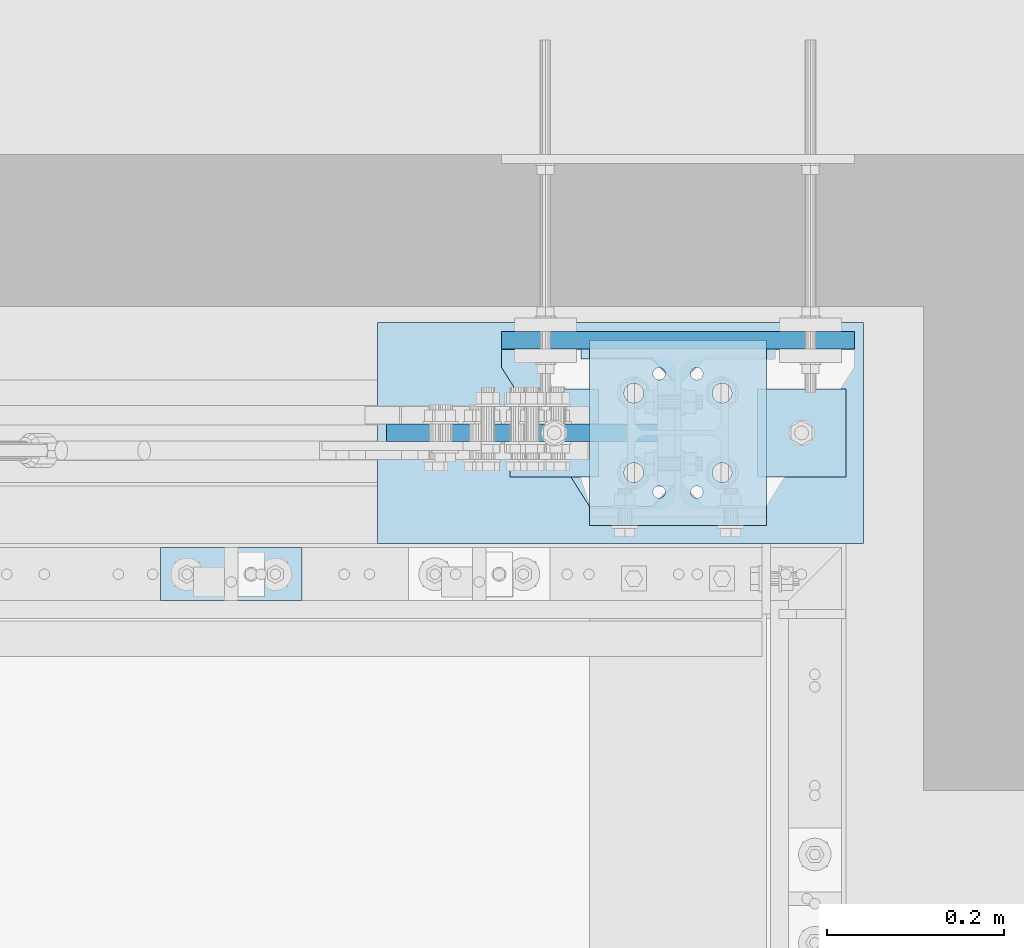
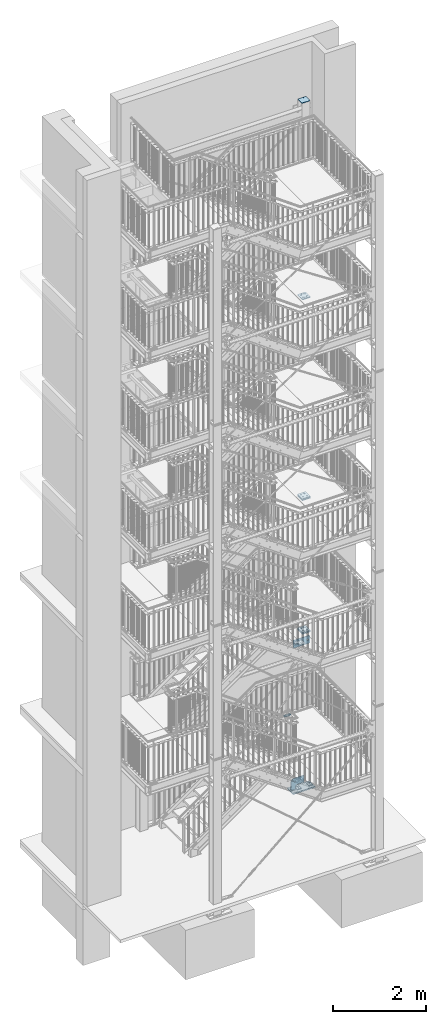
# One storey, part 217 of 831: 13 plates, 58 openings.
"""IFC2X3 building model written with IfcOpenShell, lengths in millimetres."""

from ifc_helpers import new_model, entity, si_unit, converted_unit, point, frame, frame_2d, origin, origin_with_axes, origin_2d_with_axis, place, context, project, spatial, polyline, circle_curve, line_curve, trimmed, segment, composite_curve, circle, outline, extrude, material, layer, layer_set, element, save


model = new_model("IFC2X3")

# Units and contexts
model_context = context("Model", 3, precision=1e-09, world=origin_with_axes())
ifc_project = project(units=[si_unit("LENGTHUNIT", "METRE", prefix="MILLI"), si_unit("AREAUNIT", "SQUARE_METRE"), si_unit("VOLUMEUNIT", "CUBIC_METRE"), converted_unit("PLANEANGLEUNIT", "DEGREE", entity("IfcPlaneAngleMeasure", 0.01745329), si_unit("PLANEANGLEUNIT", "RADIAN"), dimensions=[0, 0, 0, 0, 0, 0, 0])], contexts=[model_context])

# Site, building, storey
site_placement = place(None, origin_with_axes())
site = spatial("IfcSite", under=ifc_project, at=site_placement, Name="Site", CompositionType="ELEMENT")
building_placement = place(site_placement, origin_with_axes())
building = spatial("IfcBuilding", under=site, at=building_placement, Name="Struktur 1", CompositionType="ELEMENT")
storey_placement = place(building_placement, origin_with_axes())
storey = spatial("IfcBuildingStorey", under=building, at=storey_placement, Name="Default Storey", CompositionType="ELEMENT", Elevation=0.0)

# Plate, openings
ifc_material = material(Name="S235JR")
ifc_layer_1 = layer(ifc_material, 10.0)
ifc_layer_set_1 = layer_set([ifc_layer_1], Name="S235JR")
plate_1_placement = place(None, frame((8666.713402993, 7611.236971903, 3837.000000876), z_axis=(0.0, 0.0, 1.0), x_axis=(0.0, -1.0, 0.0)))
plate_1 = element("IfcPlate", 1, at=plate_1_placement, inside=storey, material=ifc_layer_set_1, Name="-", ObjectType="-", context=model_context, shape_type="SweptSolid", body=[
    extrude(outline(polyline([(0.0, 0.0), (20.0, 0.0), (178.0, 100.0), (178.0, 196.0), (11.0, 196.0), (11.0, 90.0), (0.0, 90.0), (0.0, 0.0)])), origin_with_axes(), (0.0, 0.0, 1.0), 10.0),
])
opening_1_placement = place(plate_1_placement, frame((0.0, 0.0, -0.01), z_axis=(0.0, 0.0, 1.0), x_axis=(1.0, 0.0, 0.0)))
element("IfcOpeningElement", 2, at=opening_1_placement, cuts=plate_1, ObjectType="Opening", context=model_context, shape_type="SweptSolid", body=[
    extrude(outline(polyline([(11.0, 196.0), (11.0, 171.0), (36.0, 196.0), (11.0, 196.0)])), origin(), (0.0, 0.0, 1.0), 10.02),
])
opening_2_placement = place(plate_1_placement, frame((0.0, 0.0, -0.01), z_axis=(0.0, 0.0, 1.0), x_axis=(1.0, 0.0, 0.0)))
element("IfcOpeningElement", 3, at=opening_2_placement, cuts=plate_1, ObjectType="Opening", context=model_context, shape_type="SweptSolid", body=[
    extrude(outline(polyline([(178.0, 196.0), (153.0, 196.0), (178.0, 171.0), (178.0, 196.0)])), origin(), (0.0, 0.0, 1.0), 10.02),
])

ifc_layer_2 = layer(ifc_material, 20.0)
ifc_layer_set_2 = layer_set([ifc_layer_2], Name="S235JR")
plate_2_placement = place(None, frame((8866.713402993, 7631.736971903, 3782.000000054), z_axis=(0.0, -1.0, 0.0), x_axis=(1.0, 0.0, 0.0)))
plate_2 = element("IfcPlate", 4, at=plate_2_placement, inside=storey, material=ifc_layer_set_2, Name="-", ObjectType="-", context=model_context, shape_type="SweptSolid", body=[
    extrude(outline(polyline([(-200.0, -100.0), (200.0, -100.0), (200.0, 100.0), (-200.0, 100.0), (-200.0, -100.0)])), origin_with_axes(), (0.0, 0.0, 1.0), 20.0),
])
opening_3_placement = place(plate_2_placement, frame((-3.4e-08, -5.4e-08, -0.5), z_axis=(0.0, 0.0, 1.0), x_axis=(1.0, 0.0, 0.0)))
element("IfcOpeningElement", 5, at=opening_3_placement, cuts=plate_2, ObjectType="Opening", context=model_context, shape_type="SweptSolid", body=[
    extrude(circle(Radius=20.001, at=frame_2d((150.0, 0.0), x_axis=(1.0, 0.0))), origin(), (0.0, 0.0, 1.0), 21.0),
])
opening_4_placement = place(plate_2_placement, frame((-3.4e-08, -5.4e-08, -0.5), z_axis=(0.0, 0.0, 1.0), x_axis=(1.0, 0.0, 0.0)))
element("IfcOpeningElement", 6, at=opening_4_placement, cuts=plate_2, ObjectType="Opening", context=model_context, shape_type="SweptSolid", body=[
    extrude(circle(Radius=20.001, at=frame_2d((-150.0, 0.0), x_axis=(1.0, 0.0))), origin(), (0.0, 0.0, 1.0), 21.0),
])

plate_3_placement = place(None, frame((8440.944225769, 7386.736971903, 2181.0526312), z_axis=(0.0, 0.0, 1.0), x_axis=(-1.0, 0.0, 0.0)))
plate_3 = element("IfcPlate", 7, at=plate_3_placement, inside=storey, material=ifc_layer_set_2, Name="Plate#503", ObjectType="Plate#503", context=model_context, shape_type="SweptSolid", body=[
    extrude(outline(polyline([(0.0, 0.0), (160.0, 0.0), (160.0, 60.0), (0.0, 60.0), (0.0, 0.0)])), origin_with_axes(), (0.0, 0.0, 1.0), 20.0),
])
opening_5_placement = place(plate_3_placement, frame((38.0, 37.001, 20.5), z_axis=(0.0, 0.0, 1.0), x_axis=(-1.0, 0.0, 0.0)))
element("IfcOpeningElement", 8, at=opening_5_placement, cuts=plate_3, ObjectType="Opening", context=model_context, shape_type="SweptSolid", body=[
    extrude(outline(composite_curve([segment(trimmed(line_curve((0.0, 0.0), (1.0, 0.0), 16.0), [point((0.0, 0.0))], [point((16.0, 0.0))], True, "CARTESIAN"), True, "CONTINUOUS"), segment(trimmed(circle_curve(frame_2d((16.0, 7.001), x_axis=(1.0, 0.0)), 7.001), [point((16.0, 0.0))], [point((16.0, 14.002))], True, "CARTESIAN"), True, "CONTINUOUS"), segment(trimmed(line_curve((16.0, 14.002), (-1.0, 0.0), 16.0), [point((16.0, 14.002))], [point((0.0, 14.002))], True, "CARTESIAN"), True, "CONTINUOUS"), segment(trimmed(circle_curve(frame_2d((0.0, 7.001), x_axis=(1.0, 0.0)), 7.001), [point((0.0, 14.002))], [point((0.0, 0.0))], True, "CARTESIAN"), True, "CONTINUOUS")], self_intersect=False)), origin(), (0.0, 0.0, -1.0), 21.0),
])
opening_6_placement = place(plate_3_placement, frame((138.0, 37.001, 20.5), z_axis=(0.0, 0.0, 1.0), x_axis=(-1.0, 0.0, 0.0)))
element("IfcOpeningElement", 9, at=opening_6_placement, cuts=plate_3, ObjectType="Opening", context=model_context, shape_type="SweptSolid", body=[
    extrude(outline(composite_curve([segment(trimmed(line_curve((0.0, 0.0), (1.0, 0.0), 16.0), [point((0.0, 0.0))], [point((16.0, 0.0))], True, "CARTESIAN"), True, "CONTINUOUS"), segment(trimmed(circle_curve(frame_2d((16.0, 7.001), x_axis=(1.0, 0.0)), 7.001), [point((16.0, 0.0))], [point((16.0, 14.002))], True, "CARTESIAN"), True, "CONTINUOUS"), segment(trimmed(line_curve((16.0, 14.002), (-1.0, 0.0), 16.0), [point((16.0, 14.002))], [point((0.0, 14.002))], True, "CARTESIAN"), True, "CONTINUOUS"), segment(trimmed(circle_curve(frame_2d((0.0, 7.001), x_axis=(1.0, 0.0)), 7.001), [point((0.0, 14.002))], [point((0.0, 0.0))], True, "CARTESIAN"), True, "CONTINUOUS")], self_intersect=False)), origin(), (0.0, 0.0, -1.0), 21.0),
])

# Plate, opening
ifc_layer_3 = layer(ifc_material, 12.0)
ifc_layer_set_3 = layer_set([ifc_layer_3], Name="S235JR")
plate_4_placement = place(None, frame((8726.713402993, 7516.736971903, 60.0), z_axis=(0.0, 0.0, 1.0), x_axis=(-1.0, 0.0, 0.0)))
plate_4 = element("IfcPlate", 10, at=plate_4_placement, inside=storey, material=ifc_layer_set_3, Name="-", ObjectType="-", context=model_context, shape_type="SweptSolid", body=[
    extrude(outline(polyline([(-50.0, -50.0), (50.0, -50.0), (50.0, 50.0), (-50.0, 50.0), (-50.0, -50.0)])), origin_with_axes(), (0.0, 0.0, 1.0), 12.0),
])
opening_7_placement = place(plate_4_placement, frame((1e-09, 1e-09, -0.5), z_axis=(0.0, 0.0, 1.0), x_axis=(1.0, 0.0, 0.0)))
element("IfcOpeningElement", 11, at=opening_7_placement, cuts=plate_4, ObjectType="Opening", context=model_context, shape_type="SweptSolid", body=[
    extrude(circle(Radius=9.001, at=origin_2d_with_axis()), origin(), (0.0, 0.0, 1.0), 13.0),
])

plate_5_placement = place(None, frame((9006.713402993, 7516.736971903, 60.0), z_axis=(0.0, 0.0, 1.0), x_axis=(-1.0, 0.0, 0.0)))
plate_5 = element("IfcPlate", 12, at=plate_5_placement, inside=storey, material=ifc_layer_set_3, Name="-", ObjectType="-", context=model_context, shape_type="SweptSolid", body=[
    extrude(outline(polyline([(-50.0, -50.0), (50.0, -50.0), (50.0, 50.0), (-50.0, 50.0), (-50.0, -50.0)])), origin_with_axes(), (0.0, 0.0, 1.0), 12.0),
])
opening_8_placement = place(plate_5_placement, frame((1e-09, 1e-09, -0.5), z_axis=(0.0, 0.0, 1.0), x_axis=(1.0, 0.0, 0.0)))
element("IfcOpeningElement", 13, at=opening_8_placement, cuts=plate_5, ObjectType="Opening", context=model_context, shape_type="SweptSolid", body=[
    extrude(circle(Radius=9.001, at=origin_2d_with_axis()), origin(), (0.0, 0.0, 1.0), 13.0),
])

# Plate, openings
plate_6_placement = place(None, frame((8700.088402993, 7506.736971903, 206.477386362), z_axis=(0.0, 1.0, 0.0), x_axis=(-1.0, 0.0, 0.0)))
plate_6 = element("IfcPlate", 14, at=plate_6_placement, inside=storey, material=ifc_layer_set_2, Name="-", ObjectType="-", context=model_context, shape_type="SweptSolid", body=[
    extrude(outline(polyline([(-163.375, -146.477386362), (163.375, -146.477386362), (163.375, 146.477386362), (-163.375, 146.477386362), (-163.375, -146.477386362)])), origin_with_axes(), (0.0, 0.0, 1.0), 20.0),
])
opening_9_placement = place(plate_6_placement, frame((0.0, 0.0, -0.1), z_axis=(0.0, 0.0, 1.0), x_axis=(1.0, 0.0, 0.0)))
element("IfcOpeningElement", 15, at=opening_9_placement, cuts=plate_6, ObjectType="Opening", context=model_context, shape_type="SweptSolid", body=[
    extrude(outline(composite_curve([segment(trimmed(circle_curve(frame_2d((-198.468160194, -200.200309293), x_axis=(1.0, 0.0)), 40.0), [point((-238.468160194, -200.200309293))], [point((-198.468160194, -240.200309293))], True, "CARTESIAN"), True, "CONTINUOUS"), segment(trimmed(line_curve((-198.468160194, -240.200309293), (1.0, 0.0), 201.844160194), [point((-198.468160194, -240.200309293))], [point((3.376, -240.200309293))], True, "CARTESIAN"), True, "CONTINUOUS"), segment(trimmed(circle_curve(frame_2d((3.376, -200.200309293), x_axis=(1.0, 0.0)), 40.0), [point((3.376, -240.200309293))], [point((43.376, -200.200309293))], True, "CARTESIAN"), True, "CONTINUOUS"), segment(trimmed(line_curve((43.376, -200.200309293), (0.0, 1.0), 126.678695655), [point((43.376, -200.200309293))], [point((43.376, -73.521613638))], True, "CARTESIAN"), True, "CONTINUOUS"), segment(trimmed(circle_curve(frame_2d((3.376, -73.521613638), x_axis=(1.0, 0.0)), 40.0), [point((43.376, -73.521613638))], [point((3.376, -33.521613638))], True, "CARTESIAN"), True, "CONTINUOUS"), segment(trimmed(line_curve((3.376, -33.521613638), (-1.0, 0.0), 201.844160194), [point((3.376, -33.521613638))], [point((-198.468160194, -33.521613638))], True, "CARTESIAN"), True, "CONTINUOUS"), segment(trimmed(circle_curve(frame_2d((-198.468160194, -73.521613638), x_axis=(1.0, 0.0)), 40.0), [point((-198.468160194, -33.521613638))], [point((-238.468160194, -73.521613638))], True, "CARTESIAN"), True, "CONTINUOUS"), segment(trimmed(line_curve((-238.468160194, -73.521613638), (0.0, -1.0), 126.678695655), [point((-238.468160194, -73.521613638))], [point((-238.468160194, -200.200309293))], True, "CARTESIAN"), True, "CONTINUOUS")], self_intersect=False)), origin(), (0.0, 0.0, 1.0), 20.2),
])
opening_10_placement = place(plate_6_placement, frame((0.0, 0.0, -0.1), z_axis=(0.0, 0.0, 1.0), x_axis=(1.0, 0.0, 0.0)))
element("IfcOpeningElement", 16, at=opening_10_placement, cuts=plate_6, ObjectType="Opening", context=model_context, shape_type="SweptSolid", body=[
    extrude(outline(polyline([(209.753690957, 203.906118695), (71.378333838, 185.095816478), (191.909853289, 43.56392964), (209.753690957, 203.906118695)])), origin(), (0.0, 0.0, 1.0), 20.2),
])
opening_11_placement = place(plate_6_placement, frame((100.284176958, 83.290813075, 20.5), z_axis=(0.0, 0.0, 1.0), x_axis=(1.0, 0.0, 0.0)))
element("IfcOpeningElement", 17, at=opening_11_placement, cuts=plate_6, ObjectType="Opening", context=model_context, shape_type="SweptSolid", body=[
    extrude(circle(Radius=9.001, at=frame_2d((6.821564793, 5.872329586), x_axis=(1.0, 0.0))), origin(), (0.0, 0.0, -1.0), 21.0),
])
opening_12_placement = place(plate_6_placement, frame((54.812130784, 44.146298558, 20.5), z_axis=(0.0, 0.0, 1.0), x_axis=(1.0, 0.0, 0.0)))
element("IfcOpeningElement", 18, at=opening_12_placement, cuts=plate_6, ObjectType="Opening", context=model_context, shape_type="SweptSolid", body=[
    extrude(circle(Radius=9.001, at=frame_2d((6.821564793, 5.872329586), x_axis=(1.0, 0.0))), origin(), (0.0, 0.0, -1.0), 21.0),
])

ifc_layer_4 = layer(ifc_material, 30.0)
ifc_layer_set_4 = layer_set([ifc_layer_4], Name="S235JR")
plate_7_placement = place(None, frame((8801.713402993, 7516.736971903, 30.0), z_axis=(0.0, 0.0, 1.0), x_axis=(-1.0, 0.0, 0.0)))
plate_7 = element("IfcPlate", 19, at=plate_7_placement, inside=storey, material=ifc_layer_set_4, Name="-", ObjectType="-", context=model_context, shape_type="SweptSolid", body=[
    extrude(outline(polyline([(-275.0, -125.0), (275.0, -125.0), (275.0, 125.0), (-275.0, 125.0), (-275.0, -125.0)])), origin_with_axes(), (0.0, 0.0, 1.0), 30.0),
])
opening_13_placement = place(plate_7_placement, frame((-65.0, 0.0, -0.5), z_axis=(0.0, 0.0, 1.0), x_axis=(1.0, 0.0, 0.0)))
element("IfcOpeningElement", 20, at=opening_13_placement, cuts=plate_7, ObjectType="Opening", context=model_context, shape_type="SweptSolid", body=[
    extrude(circle(Radius=28.001, at=frame_2d((140.0, 0.0), x_axis=(1.0, 0.0))), origin(), (0.0, 0.0, 1.0), 31.0),
])
opening_14_placement = place(plate_7_placement, frame((-65.0, 0.0, -0.5), z_axis=(0.0, 0.0, 1.0), x_axis=(1.0, 0.0, 0.0)))
element("IfcOpeningElement", 21, at=opening_14_placement, cuts=plate_7, ObjectType="Opening", context=model_context, shape_type="SweptSolid", body=[
    extrude(circle(Radius=28.001, at=frame_2d((-140.0, 0.0), x_axis=(1.0, 0.0))), origin(), (0.0, 0.0, 1.0), 31.0),
])

ifc_layer_5 = layer(ifc_material, 25.0)
ifc_layer_set_5 = layer_set([ifc_layer_5], Name="S235JR")
plate_8_placement = place(None, frame((8866.713402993, 7516.736971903, 4150.0), z_axis=(0.0, 0.0, -1.0), x_axis=(0.0, -1.0, 0.0)))
plate_8 = element("IfcPlate", 22, at=plate_8_placement, inside=storey, material=ifc_layer_set_5, Name="Endplate#1", ObjectType="Endplate#1", context=model_context, shape_type="SweptSolid", body=[
    extrude(outline(polyline([(-105.0, -100.0), (105.0, -100.0), (105.0, 100.0), (-105.0, 100.0), (-105.0, -100.0)])), origin_with_axes(), (0.0, 0.0, 1.0), 25.0),
])
opening_15_placement = place(plate_8_placement, frame((67.0, 21.25, -0.5), z_axis=(0.0, 0.0, 1.0), x_axis=(1.0, 0.0, 0.0)))
element("IfcOpeningElement", 23, at=opening_15_placement, cuts=plate_8, ObjectType="Opening", context=model_context, shape_type="SweptSolid", body=[
    extrude(circle(Radius=7.001, at=origin_2d_with_axis()), origin(), (0.0, 0.0, 1.0), 26.0),
])
opening_16_placement = place(plate_8_placement, frame((-67.0, 21.25, -0.5), z_axis=(0.0, 0.0, 1.0), x_axis=(1.0, 0.0, 0.0)))
element("IfcOpeningElement", 24, at=opening_16_placement, cuts=plate_8, ObjectType="Opening", context=model_context, shape_type="SweptSolid", body=[
    extrude(circle(Radius=7.001, at=origin_2d_with_axis()), origin(), (0.0, 0.0, 1.0), 26.0),
])
opening_17_placement = place(plate_8_placement, frame((-67.0, -21.25, -0.5), z_axis=(0.0, 0.0, 1.0), x_axis=(1.0, 0.0, 0.0)))
element("IfcOpeningElement", 25, at=opening_17_placement, cuts=plate_8, ObjectType="Opening", context=model_context, shape_type="SweptSolid", body=[
    extrude(circle(Radius=7.001, at=origin_2d_with_axis()), origin(), (0.0, 0.0, 1.0), 26.0),
])
opening_18_placement = place(plate_8_placement, frame((67.0, -21.25, -0.5), z_axis=(0.0, 0.0, 1.0), x_axis=(1.0, 0.0, 0.0)))
element("IfcOpeningElement", 26, at=opening_18_placement, cuts=plate_8, ObjectType="Opening", context=model_context, shape_type="SweptSolid", body=[
    extrude(circle(Radius=7.001, at=origin_2d_with_axis()), origin(), (0.0, 0.0, 1.0), 26.0),
])
opening_19_placement = place(plate_8_placement, frame((45.0, -38.999, 25.5), z_axis=(0.0, 0.0, 1.0), x_axis=(1.0, 0.0, 0.0)))
element("IfcOpeningElement", 27, at=opening_19_placement, cuts=plate_8, ObjectType="Opening", context=model_context, shape_type="SweptSolid", body=[
    extrude(circle(Radius=11.001, at=frame_2d((0.0, -11.001), x_axis=(1.0, 0.0))), origin(), (0.0, 0.0, -1.0), 26.0),
])
opening_20_placement = place(plate_8_placement, frame((-45.0, -38.999, 25.5), z_axis=(0.0, 0.0, 1.0), x_axis=(1.0, 0.0, 0.0)))
element("IfcOpeningElement", 28, at=opening_20_placement, cuts=plate_8, ObjectType="Opening", context=model_context, shape_type="SweptSolid", body=[
    extrude(circle(Radius=11.001, at=frame_2d((0.0, -11.001), x_axis=(1.0, 0.0))), origin(), (0.0, 0.0, -1.0), 26.0),
])
opening_21_placement = place(plate_8_placement, frame((45.0, 61.001, 25.5), z_axis=(0.0, 0.0, 1.0), x_axis=(1.0, 0.0, 0.0)))
element("IfcOpeningElement", 29, at=opening_21_placement, cuts=plate_8, ObjectType="Opening", context=model_context, shape_type="SweptSolid", body=[
    extrude(circle(Radius=11.001, at=frame_2d((0.0, -11.001), x_axis=(1.0, 0.0))), origin(), (0.0, 0.0, -1.0), 26.0),
])
opening_22_placement = place(plate_8_placement, frame((-45.0, 61.001, 25.5), z_axis=(0.0, 0.0, 1.0), x_axis=(1.0, 0.0, 0.0)))
element("IfcOpeningElement", 30, at=opening_22_placement, cuts=plate_8, ObjectType="Opening", context=model_context, shape_type="SweptSolid", body=[
    extrude(circle(Radius=11.001, at=frame_2d((0.0, -11.001), x_axis=(1.0, 0.0))), origin(), (0.0, 0.0, -1.0), 26.0),
])

plate_9_placement = place(None, frame((8866.713402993, 7516.736971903, 4175.0), z_axis=(0.0, 0.0, -1.0), x_axis=(0.0, -1.0, 0.0)))
plate_9 = element("IfcPlate", 31, at=plate_9_placement, inside=storey, material=ifc_layer_set_5, Name="Endplate#2", ObjectType="Endplate#2", context=model_context, shape_type="SweptSolid", body=[
    extrude(outline(polyline([(-105.0, -100.0), (105.0, -100.0), (105.0, 100.0), (-105.0, 100.0), (-105.0, -100.0)])), origin_with_axes(), (0.0, 0.0, 1.0), 25.0),
])
opening_23_placement = place(plate_9_placement, frame((67.0, 21.25, 25.5), z_axis=(0.0, 0.0, -1.0), x_axis=(-1.0, 0.0, 0.0)))
element("IfcOpeningElement", 32, at=opening_23_placement, cuts=plate_9, ObjectType="Opening", context=model_context, shape_type="SweptSolid", body=[
    extrude(circle(Radius=7.001, at=origin_2d_with_axis()), origin(), (0.0, 0.0, 1.0), 26.0),
])
opening_24_placement = place(plate_9_placement, frame((-67.0, 21.25, 25.5), z_axis=(0.0, 0.0, -1.0), x_axis=(-1.0, 0.0, 0.0)))
element("IfcOpeningElement", 33, at=opening_24_placement, cuts=plate_9, ObjectType="Opening", context=model_context, shape_type="SweptSolid", body=[
    extrude(circle(Radius=7.001, at=origin_2d_with_axis()), origin(), (0.0, 0.0, 1.0), 26.0),
])
opening_25_placement = place(plate_9_placement, frame((-67.0, -21.25, 25.5), z_axis=(0.0, 0.0, -1.0), x_axis=(-1.0, 0.0, 0.0)))
element("IfcOpeningElement", 34, at=opening_25_placement, cuts=plate_9, ObjectType="Opening", context=model_context, shape_type="SweptSolid", body=[
    extrude(circle(Radius=7.001, at=origin_2d_with_axis()), origin(), (0.0, 0.0, 1.0), 26.0),
])
opening_26_placement = place(plate_9_placement, frame((67.0, -21.25, 25.5), z_axis=(0.0, 0.0, -1.0), x_axis=(-1.0, 0.0, 0.0)))
element("IfcOpeningElement", 35, at=opening_26_placement, cuts=plate_9, ObjectType="Opening", context=model_context, shape_type="SweptSolid", body=[
    extrude(circle(Radius=7.001, at=origin_2d_with_axis()), origin(), (0.0, 0.0, 1.0), 26.0),
])
opening_27_placement = place(plate_9_placement, frame((45.0, 61.001, 25.5), z_axis=(0.0, 0.0, 1.0), x_axis=(1.0, 0.0, 0.0)))
element("IfcOpeningElement", 36, at=opening_27_placement, cuts=plate_9, ObjectType="Opening", context=model_context, shape_type="SweptSolid", body=[
    extrude(circle(Radius=11.001, at=frame_2d((0.0, -11.001), x_axis=(1.0, 0.0))), origin(), (0.0, 0.0, -1.0), 26.0),
])
opening_28_placement = place(plate_9_placement, frame((-45.0, 61.001, 25.5), z_axis=(0.0, 0.0, 1.0), x_axis=(1.0, 0.0, 0.0)))
element("IfcOpeningElement", 37, at=opening_28_placement, cuts=plate_9, ObjectType="Opening", context=model_context, shape_type="SweptSolid", body=[
    extrude(circle(Radius=11.001, at=frame_2d((0.0, -11.001), x_axis=(1.0, 0.0))), origin(), (0.0, 0.0, -1.0), 26.0),
])
opening_29_placement = place(plate_9_placement, frame((45.0, -38.999, 25.5), z_axis=(0.0, 0.0, 1.0), x_axis=(1.0, 0.0, 0.0)))
element("IfcOpeningElement", 38, at=opening_29_placement, cuts=plate_9, ObjectType="Opening", context=model_context, shape_type="SweptSolid", body=[
    extrude(circle(Radius=11.001, at=frame_2d((0.0, -11.001), x_axis=(1.0, 0.0))), origin(), (0.0, 0.0, -1.0), 26.0),
])
opening_30_placement = place(plate_9_placement, frame((-45.0, -38.999, 25.5), z_axis=(0.0, 0.0, 1.0), x_axis=(1.0, 0.0, 0.0)))
element("IfcOpeningElement", 39, at=opening_30_placement, cuts=plate_9, ObjectType="Opening", context=model_context, shape_type="SweptSolid", body=[
    extrude(circle(Radius=11.001, at=frame_2d((0.0, -11.001), x_axis=(1.0, 0.0))), origin(), (0.0, 0.0, -1.0), 26.0),
])

plate_10_placement = place(None, frame((8866.713402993, 7516.736971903, 7650.0), z_axis=(0.0, 0.0, -1.0), x_axis=(0.0, -1.0, 0.0)))
plate_10 = element("IfcPlate", 40, at=plate_10_placement, inside=storey, material=ifc_layer_set_5, Name="Endplate#1", ObjectType="Endplate#1", context=model_context, shape_type="SweptSolid", body=[
    extrude(outline(polyline([(-105.0, -100.0), (105.0, -100.0), (105.0, 100.0), (-105.0, 100.0), (-105.0, -100.0)])), origin_with_axes(), (0.0, 0.0, 1.0), 25.0),
])
opening_31_placement = place(plate_10_placement, frame((67.0, 21.25, -0.5), z_axis=(0.0, 0.0, 1.0), x_axis=(1.0, 0.0, 0.0)))
element("IfcOpeningElement", 41, at=opening_31_placement, cuts=plate_10, ObjectType="Opening", context=model_context, shape_type="SweptSolid", body=[
    extrude(circle(Radius=7.001, at=origin_2d_with_axis()), origin(), (0.0, 0.0, 1.0), 26.0),
])
opening_32_placement = place(plate_10_placement, frame((-67.0, 21.25, -0.5), z_axis=(0.0, 0.0, 1.0), x_axis=(1.0, 0.0, 0.0)))
element("IfcOpeningElement", 42, at=opening_32_placement, cuts=plate_10, ObjectType="Opening", context=model_context, shape_type="SweptSolid", body=[
    extrude(circle(Radius=7.001, at=origin_2d_with_axis()), origin(), (0.0, 0.0, 1.0), 26.0),
])
opening_33_placement = place(plate_10_placement, frame((-67.0, -21.25, -0.5), z_axis=(0.0, 0.0, 1.0), x_axis=(1.0, 0.0, 0.0)))
element("IfcOpeningElement", 43, at=opening_33_placement, cuts=plate_10, ObjectType="Opening", context=model_context, shape_type="SweptSolid", body=[
    extrude(circle(Radius=7.001, at=origin_2d_with_axis()), origin(), (0.0, 0.0, 1.0), 26.0),
])
opening_34_placement = place(plate_10_placement, frame((67.0, -21.25, -0.5), z_axis=(0.0, 0.0, 1.0), x_axis=(1.0, 0.0, 0.0)))
element("IfcOpeningElement", 44, at=opening_34_placement, cuts=plate_10, ObjectType="Opening", context=model_context, shape_type="SweptSolid", body=[
    extrude(circle(Radius=7.001, at=origin_2d_with_axis()), origin(), (0.0, 0.0, 1.0), 26.0),
])
opening_35_placement = place(plate_10_placement, frame((45.0, 61.001, 25.5), z_axis=(0.0, 0.0, 1.0), x_axis=(1.0, 0.0, 0.0)))
element("IfcOpeningElement", 45, at=opening_35_placement, cuts=plate_10, ObjectType="Opening", context=model_context, shape_type="SweptSolid", body=[
    extrude(circle(Radius=11.001, at=frame_2d((0.0, -11.001), x_axis=(1.0, 0.0))), origin(), (0.0, 0.0, -1.0), 26.0),
])
opening_36_placement = place(plate_10_placement, frame((-45.0, 61.001, 25.5), z_axis=(0.0, 0.0, 1.0), x_axis=(1.0, 0.0, 0.0)))
element("IfcOpeningElement", 46, at=opening_36_placement, cuts=plate_10, ObjectType="Opening", context=model_context, shape_type="SweptSolid", body=[
    extrude(circle(Radius=11.001, at=frame_2d((0.0, -11.001), x_axis=(1.0, 0.0))), origin(), (0.0, 0.0, -1.0), 26.0),
])
opening_37_placement = place(plate_10_placement, frame((45.0, -38.999, 25.5), z_axis=(0.0, 0.0, 1.0), x_axis=(1.0, 0.0, 0.0)))
element("IfcOpeningElement", 47, at=opening_37_placement, cuts=plate_10, ObjectType="Opening", context=model_context, shape_type="SweptSolid", body=[
    extrude(circle(Radius=11.001, at=frame_2d((0.0, -11.001), x_axis=(1.0, 0.0))), origin(), (0.0, 0.0, -1.0), 26.0),
])
opening_38_placement = place(plate_10_placement, frame((-45.0, -38.999, 25.5), z_axis=(0.0, 0.0, 1.0), x_axis=(1.0, 0.0, 0.0)))
element("IfcOpeningElement", 48, at=opening_38_placement, cuts=plate_10, ObjectType="Opening", context=model_context, shape_type="SweptSolid", body=[
    extrude(circle(Radius=11.001, at=frame_2d((0.0, -11.001), x_axis=(1.0, 0.0))), origin(), (0.0, 0.0, -1.0), 26.0),
])

plate_11_placement = place(None, frame((8866.713402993, 7516.736971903, 7675.0), z_axis=(0.0, 0.0, -1.0), x_axis=(0.0, -1.0, 0.0)))
plate_11 = element("IfcPlate", 49, at=plate_11_placement, inside=storey, material=ifc_layer_set_5, Name="Endplate#2", ObjectType="Endplate#2", context=model_context, shape_type="SweptSolid", body=[
    extrude(outline(polyline([(-105.0, -100.0), (105.0, -100.0), (105.0, 100.0), (-105.0, 100.0), (-105.0, -100.0)])), origin_with_axes(), (0.0, 0.0, 1.0), 25.0),
])
opening_39_placement = place(plate_11_placement, frame((67.0, 21.25, 25.5), z_axis=(0.0, 0.0, -1.0), x_axis=(-1.0, 0.0, 0.0)))
element("IfcOpeningElement", 50, at=opening_39_placement, cuts=plate_11, ObjectType="Opening", context=model_context, shape_type="SweptSolid", body=[
    extrude(circle(Radius=7.001, at=origin_2d_with_axis()), origin(), (0.0, 0.0, 1.0), 26.0),
])
opening_40_placement = place(plate_11_placement, frame((-67.0, 21.25, 25.5), z_axis=(0.0, 0.0, -1.0), x_axis=(-1.0, 0.0, 0.0)))
element("IfcOpeningElement", 51, at=opening_40_placement, cuts=plate_11, ObjectType="Opening", context=model_context, shape_type="SweptSolid", body=[
    extrude(circle(Radius=7.001, at=origin_2d_with_axis()), origin(), (0.0, 0.0, 1.0), 26.0),
])
opening_41_placement = place(plate_11_placement, frame((-67.0, -21.25, 25.5), z_axis=(0.0, 0.0, -1.0), x_axis=(-1.0, 0.0, 0.0)))
element("IfcOpeningElement", 52, at=opening_41_placement, cuts=plate_11, ObjectType="Opening", context=model_context, shape_type="SweptSolid", body=[
    extrude(circle(Radius=7.001, at=origin_2d_with_axis()), origin(), (0.0, 0.0, 1.0), 26.0),
])
opening_42_placement = place(plate_11_placement, frame((67.0, -21.25, 25.5), z_axis=(0.0, 0.0, -1.0), x_axis=(-1.0, 0.0, 0.0)))
element("IfcOpeningElement", 53, at=opening_42_placement, cuts=plate_11, ObjectType="Opening", context=model_context, shape_type="SweptSolid", body=[
    extrude(circle(Radius=7.001, at=origin_2d_with_axis()), origin(), (0.0, 0.0, 1.0), 26.0),
])
opening_43_placement = place(plate_11_placement, frame((45.0, -38.999, 25.5), z_axis=(0.0, 0.0, 1.0), x_axis=(1.0, 0.0, 0.0)))
element("IfcOpeningElement", 54, at=opening_43_placement, cuts=plate_11, ObjectType="Opening", context=model_context, shape_type="SweptSolid", body=[
    extrude(circle(Radius=11.001, at=frame_2d((0.0, -11.001), x_axis=(1.0, 0.0))), origin(), (0.0, 0.0, -1.0), 26.0),
])
opening_44_placement = place(plate_11_placement, frame((-45.0, -38.999, 25.5), z_axis=(0.0, 0.0, 1.0), x_axis=(1.0, 0.0, 0.0)))
element("IfcOpeningElement", 55, at=opening_44_placement, cuts=plate_11, ObjectType="Opening", context=model_context, shape_type="SweptSolid", body=[
    extrude(circle(Radius=11.001, at=frame_2d((0.0, -11.001), x_axis=(1.0, 0.0))), origin(), (0.0, 0.0, -1.0), 26.0),
])
opening_45_placement = place(plate_11_placement, frame((45.0, 61.001, 25.5), z_axis=(0.0, 0.0, 1.0), x_axis=(1.0, 0.0, 0.0)))
element("IfcOpeningElement", 56, at=opening_45_placement, cuts=plate_11, ObjectType="Opening", context=model_context, shape_type="SweptSolid", body=[
    extrude(circle(Radius=11.001, at=frame_2d((0.0, -11.001), x_axis=(1.0, 0.0))), origin(), (0.0, 0.0, -1.0), 26.0),
])
opening_46_placement = place(plate_11_placement, frame((-45.0, 61.001, 25.5), z_axis=(0.0, 0.0, 1.0), x_axis=(1.0, 0.0, 0.0)))
element("IfcOpeningElement", 57, at=opening_46_placement, cuts=plate_11, ObjectType="Opening", context=model_context, shape_type="SweptSolid", body=[
    extrude(circle(Radius=11.001, at=frame_2d((0.0, -11.001), x_axis=(1.0, 0.0))), origin(), (0.0, 0.0, -1.0), 26.0),
])

plate_12_placement = place(None, frame((8866.713402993, 7516.736971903, 18013.999999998), z_axis=(0.0, 0.0, 1.0), x_axis=(1.0, 0.0, 0.0)))
plate_12 = element("IfcPlate", 58, at=plate_12_placement, inside=storey, material=ifc_layer_set_1, Name="-", ObjectType="-", context=model_context, shape_type="SweptSolid", body=[
    extrude(outline(polyline([(-100.0, -90.0), (100.0, -90.0), (100.0, 90.0), (-100.0, 90.0), (-100.0, -90.0)])), origin_with_axes(), (0.0, 0.0, 1.0), 10.0),
])
opening_47_placement = place(plate_12_placement, frame((-21.25, -67.0, 10.5), z_axis=(0.0, 0.0, -1.0), x_axis=(0.0, -1.0, 0.0)))
element("IfcOpeningElement", 59, at=opening_47_placement, cuts=plate_12, ObjectType="Opening", context=model_context, shape_type="SweptSolid", body=[
    extrude(circle(Radius=6.001, at=origin_2d_with_axis()), origin(), (0.0, 0.0, 1.0), 11.0),
])
opening_48_placement = place(plate_12_placement, frame((-21.25, 67.0, 10.5), z_axis=(0.0, 0.0, -1.0), x_axis=(0.0, -1.0, 0.0)))
element("IfcOpeningElement", 60, at=opening_48_placement, cuts=plate_12, ObjectType="Opening", context=model_context, shape_type="SweptSolid", body=[
    extrude(circle(Radius=6.001, at=origin_2d_with_axis()), origin(), (0.0, 0.0, 1.0), 11.0),
])
opening_49_placement = place(plate_12_placement, frame((21.25, 67.0, 10.5), z_axis=(0.0, 0.0, -1.0), x_axis=(0.0, -1.0, 0.0)))
element("IfcOpeningElement", 61, at=opening_49_placement, cuts=plate_12, ObjectType="Opening", context=model_context, shape_type="SweptSolid", body=[
    extrude(circle(Radius=6.001, at=origin_2d_with_axis()), origin(), (0.0, 0.0, 1.0), 11.0),
])
opening_50_placement = place(plate_12_placement, frame((21.25, -67.0, 10.5), z_axis=(0.0, 0.0, -1.0), x_axis=(0.0, -1.0, 0.0)))
element("IfcOpeningElement", 62, at=opening_50_placement, cuts=plate_12, ObjectType="Opening", context=model_context, shape_type="SweptSolid", body=[
    extrude(circle(Radius=6.001, at=origin_2d_with_axis()), origin(), (0.0, 0.0, 1.0), 11.0),
])

plate_13_placement = place(None, frame((8866.713402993, 7516.736971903, 12900.0), z_axis=(0.0, 0.0, -1.0), x_axis=(0.0, -1.0, 0.0)))
plate_13 = element("IfcPlate", 63, at=plate_13_placement, inside=storey, material=ifc_layer_set_5, Name="Endplate#1", ObjectType="Endplate#1", context=model_context, shape_type="SweptSolid", body=[
    extrude(outline(polyline([(-105.0, -100.0), (105.0, -100.0), (105.0, 100.0), (-105.0, 100.0), (-105.0, -100.0)])), origin_with_axes(), (0.0, 0.0, 1.0), 25.0),
])
opening_51_placement = place(plate_13_placement, frame((67.0, 21.25, -0.5), z_axis=(0.0, 0.0, 1.0), x_axis=(1.0, 0.0, 0.0)))
element("IfcOpeningElement", 64, at=opening_51_placement, cuts=plate_13, ObjectType="Opening", context=model_context, shape_type="SweptSolid", body=[
    extrude(circle(Radius=7.001, at=origin_2d_with_axis()), origin(), (0.0, 0.0, 1.0), 26.0),
])
opening_52_placement = place(plate_13_placement, frame((-67.0, 21.25, -0.5), z_axis=(0.0, 0.0, 1.0), x_axis=(1.0, 0.0, 0.0)))
element("IfcOpeningElement", 65, at=opening_52_placement, cuts=plate_13, ObjectType="Opening", context=model_context, shape_type="SweptSolid", body=[
    extrude(circle(Radius=7.001, at=origin_2d_with_axis()), origin(), (0.0, 0.0, 1.0), 26.0),
])
opening_53_placement = place(plate_13_placement, frame((-67.0, -21.25, -0.5), z_axis=(0.0, 0.0, 1.0), x_axis=(1.0, 0.0, 0.0)))
element("IfcOpeningElement", 66, at=opening_53_placement, cuts=plate_13, ObjectType="Opening", context=model_context, shape_type="SweptSolid", body=[
    extrude(circle(Radius=7.001, at=origin_2d_with_axis()), origin(), (0.0, 0.0, 1.0), 26.0),
])
opening_54_placement = place(plate_13_placement, frame((67.0, -21.25, -0.5), z_axis=(0.0, 0.0, 1.0), x_axis=(1.0, 0.0, 0.0)))
element("IfcOpeningElement", 67, at=opening_54_placement, cuts=plate_13, ObjectType="Opening", context=model_context, shape_type="SweptSolid", body=[
    extrude(circle(Radius=7.001, at=origin_2d_with_axis()), origin(), (0.0, 0.0, 1.0), 26.0),
])
opening_55_placement = place(plate_13_placement, frame((45.0, -38.999, 25.5), z_axis=(0.0, 0.0, 1.0), x_axis=(1.0, 0.0, 0.0)))
element("IfcOpeningElement", 68, at=opening_55_placement, cuts=plate_13, ObjectType="Opening", context=model_context, shape_type="SweptSolid", body=[
    extrude(circle(Radius=11.001, at=frame_2d((0.0, -11.001), x_axis=(1.0, 0.0))), origin(), (0.0, 0.0, -1.0), 26.0),
])
opening_56_placement = place(plate_13_placement, frame((-45.0, -38.999, 25.5), z_axis=(0.0, 0.0, 1.0), x_axis=(1.0, 0.0, 0.0)))
element("IfcOpeningElement", 69, at=opening_56_placement, cuts=plate_13, ObjectType="Opening", context=model_context, shape_type="SweptSolid", body=[
    extrude(circle(Radius=11.001, at=frame_2d((0.0, -11.001), x_axis=(1.0, 0.0))), origin(), (0.0, 0.0, -1.0), 26.0),
])
opening_57_placement = place(plate_13_placement, frame((45.0, 61.001, 25.5), z_axis=(0.0, 0.0, 1.0), x_axis=(1.0, 0.0, 0.0)))
element("IfcOpeningElement", 70, at=opening_57_placement, cuts=plate_13, ObjectType="Opening", context=model_context, shape_type="SweptSolid", body=[
    extrude(circle(Radius=11.001, at=frame_2d((0.0, -11.001), x_axis=(1.0, 0.0))), origin(), (0.0, 0.0, -1.0), 26.0),
])
opening_58_placement = place(plate_13_placement, frame((-45.0, 61.001, 25.5), z_axis=(0.0, 0.0, 1.0), x_axis=(1.0, 0.0, 0.0)))
element("IfcOpeningElement", 71, at=opening_58_placement, cuts=plate_13, ObjectType="Opening", context=model_context, shape_type="SweptSolid", body=[
    extrude(circle(Radius=11.001, at=frame_2d((0.0, -11.001), x_axis=(1.0, 0.0))), origin(), (0.0, 0.0, -1.0), 26.0),
])

save(model, "model.ifc")
